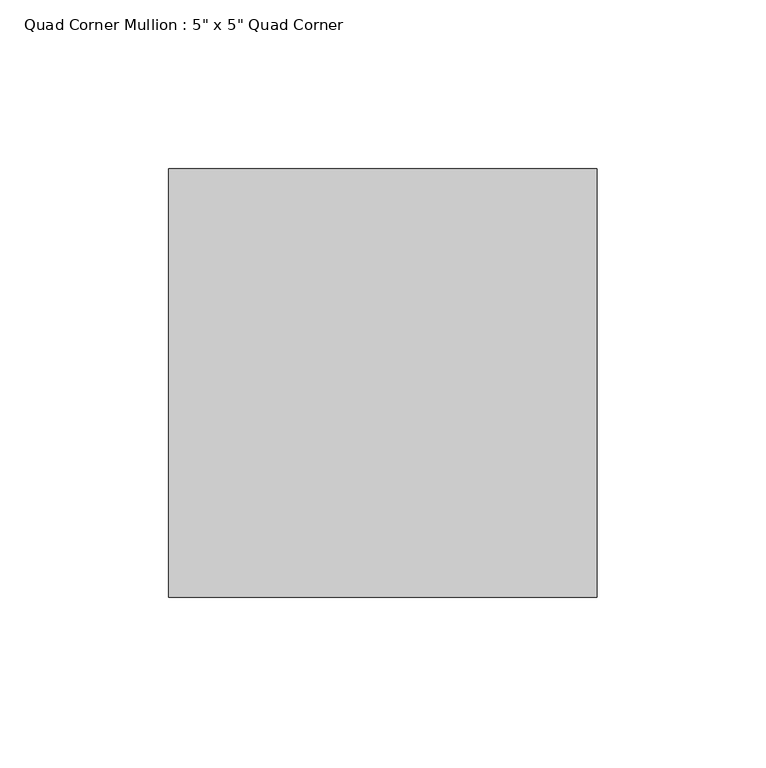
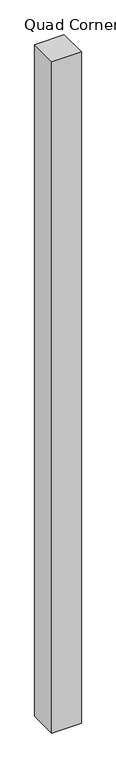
"""IFC4 building model written with IfcOpenShell, lengths in millimetres: member geometry."""

from ifc_helpers import new_model, si_unit, frame, origin, place, context, project, spatial, polyline, outline, extrude, source, transform, mapped, element, save


def member_092dde94(model_context):
    return source(origin(), model_context, "Body", "SweptSolid", [
        extrude(outline(polyline([(63.5, 63.5), (63.5, -63.5), (-63.5, -63.5), (-63.5, 63.5), (63.5, 63.5)])), frame((0.0, 0.0, -3048.0), z_axis=(0.0, 0.0, 1.0), x_axis=(1.0, 0.0, 0.0)), (0.0, 0.0, 1.0), 3048.0),
    ])


if __name__ == "__main__":
    model = new_model("IFC4")
    model_context = context("Model", 3, world=origin())
    ifc_project = project(units=[si_unit("LENGTHUNIT", "METRE", prefix="MILLI")], contexts=[model_context])
    site = spatial("IfcSite", under=ifc_project)
    building = spatial("IfcBuilding", under=site)
    placement = place(None, origin())
    member_shape = member_092dde94(model_context)
    element("IfcMember", 1, ObjectType="Quad Corner Mullion : 5\" x 5\" Quad Corner", at=placement, inside=building, context=model_context, shape_type="MappedRepresentation", body=[
        mapped(member_shape, transform((0.0, 0.0, 0.0), x_axis=(1.0, 0.0, 0.0), y_axis=(0.0, 1.0, 0.0), z_axis=(0.0, 0.0, 1.0))),
    ])
    save(model, "model.ifc")
